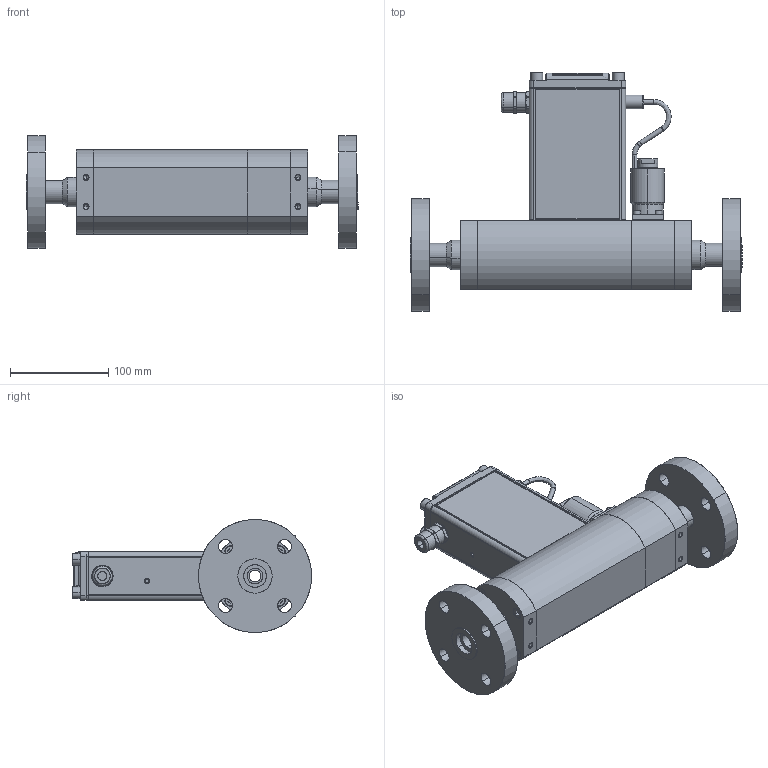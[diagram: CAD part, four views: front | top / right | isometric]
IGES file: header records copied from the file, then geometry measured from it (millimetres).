
Start section: SolidWorks IGES file using analytic representation for surfaces
Global section: file name: G:\Engineering\CAD MODELS FOR SALES\CAD MODEL STORAGE\SLA\SLAMF53\Customer Files\IGES\SLAMF53-S-3B-3-G-REVB.IGS; native system: SolidWorks 2023; preprocessor: SolidWorks 2023; author: CFehr; date: 250307.145242; units: inch
Bounding box: 337.4 x 243.13 x 115.03 mm (x, y, z)
Surface area: 395352.2 mm2 (no closed solid volume)
Topology: 0 solids, 0 shells, 1127 faces, 18275 edges, 18227 vertices
Faces by surface type: revolution 715, bspline 412
